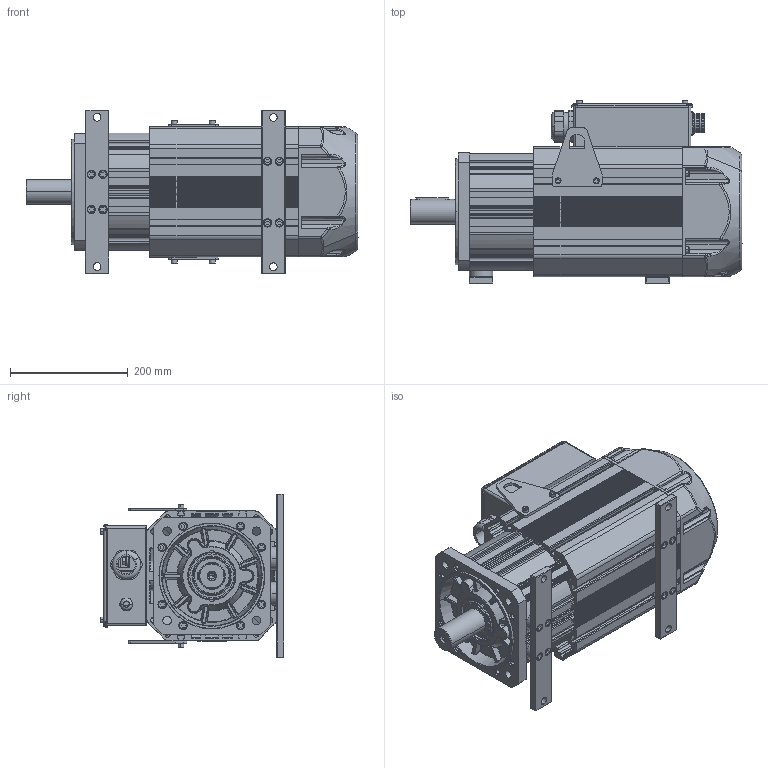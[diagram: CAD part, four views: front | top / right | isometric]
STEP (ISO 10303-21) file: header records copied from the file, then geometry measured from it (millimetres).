
FILE_DESCRIPTION((''),'2;1');
FILE_NAME('140N__SW0001','2025-08-25T08:56:37',('0109502'),(''),'CREO PARAMETRIC BY PTC INC, 2019080','CREO PARAMETRIC BY PTC INC, 2019080','');
FILE_SCHEMA(('CONFIG_CONTROL_DESIGN'));
Products named in the file (1): 140N__SW0001
Bounding box: 565 x 312.5 x 278.25 mm (x, y, z)
Surface area: 1742428.8 mm2 (no closed solid volume)
Topology: 0 solids, 199 shells, 3372 faces, 11531 edges, 8179 vertices
Faces by surface type: plane 1560, cylinder 1139, torus 258, bspline 206, cone 179, sphere 30
Entity records: 140469 total; most frequent: CARTESIAN_POINT 40981, DIRECTION 21056, ORIENTED_EDGE 19026, EDGE_CURVE 11511, VERTEX_POINT 8179, AXIS2_PLACEMENT_3D 7180, VECTOR 6696, LINE 6696
